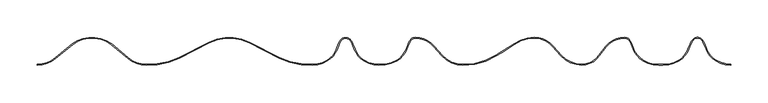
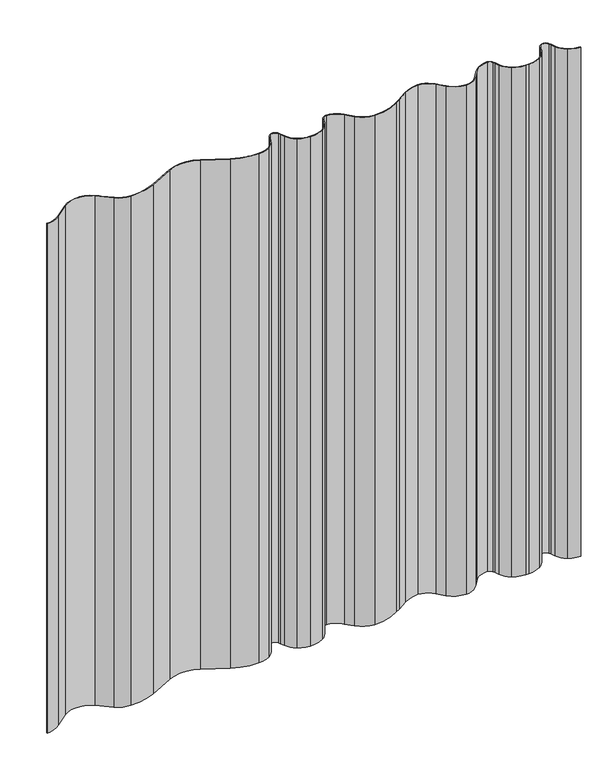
"""IFC4 building model written with IfcOpenShell, lengths in millimetres: plate geometry, Ritmica Vertical 928 : Ritmica Vertical 928."""

from ifc_helpers import new_model, si_unit, frame, origin, place, context, project, spatial, polyline, circle_curve, source, transform, mapped, element, save
from ifc_brep_helpers import plane_surface, cylinder_surface, revolved_surface, advanced_brep


def plate_ffdc8044(model_context):
    return source(origin(), model_context, "Body", "AdvancedBrep", [
        advanced_brep(
        [(444.4302446, 6.5092452, 935.9427146), (431.9836286, 21.2620905, 935.9427146), (429.1046615, 28.4575337, 935.9427146), (427.4452979, 31.9226201, 935.9427146), (411.4637013, 31.9284371, 935.9427146), (409.8018157, 28.4645596, 935.9427146), (406.9176114, 21.271214, 935.9427146), (394.4602592, 6.5274333, 935.9427146), (373.3665492, 0.7421636, 935.9427146), (368.0278773, 0.7421636, 935.9427146), (346.9383844, 6.5447303, 935.9427146), (334.4917684, 21.2975755, 935.9427146), (331.6128013, 28.4930188, 935.9427146), (329.9534377, 31.9581052, 935.9427146), (321.9644706, 36.992141, 935.9427146), (296.9888452, 24.9656023, 935.9427146), (287.4386892, 12.9828793, 935.9427146), (264.9602063, 1.004862, 935.9427146), (237.4962028, 13.0090371, 935.9427146), (226.3924296, 24.9992776, 935.9427146), (201.4255657, 37.0439944, 935.9427146), (174.6923281, 28.6299834, 935.9427146), (157.3593244, 17.4991286, 935.9427146), (149.9257866, 13.1042873, 935.9427146), (105.747615, 0.9217598, 935.9427146), (78.2836116, 12.9259348, 935.9427146), (67.1798385, 24.9161752, 935.9427146), (42.2097646, 36.9608925, 935.9427146), (34.2203451, 31.9326734, 935.9427146), (32.5584593, 28.4687956, 935.9427146), (29.674242, 21.2754179, 935.9427146), (17.2169044, 6.5316705, 935.9427146), (-6.5461114, 0.8337401, 935.9427146), (-26.0848579, 6.3430017, 935.9427146), (-38.5314739, 21.0958469, 935.9427146), (-41.410441, 28.2912902, 935.9427146), (-43.0698047, 31.7563766, 935.9427146), (-59.0514012, 31.7621935, 935.9427146), (-60.7132869, 28.298316, 935.9427146), (-63.5974912, 21.1049705, 935.9427146), (-76.0548434, 6.3611897, 935.9427146), (-95.5975949, 0.8661531, 935.9427146), (-139.3425473, 10.0476548, 935.9427146), (-179.8736188, 30.4443215, 935.9427146), (-233.7774888, 30.4639414, 935.9427146), (-274.3233975, 10.0967851, 935.9427146), (-318.0750221, 0.9471304, 935.9427146), (-341.83917, 9.5589915, 935.9427146), (-364.2633956, 28.2547827, 935.9427146), (-417.1208498, 28.2740218, 935.9427146), (-439.8609935, 9.5945594, 935.9427146), (-463.6317682, 1.0000001, 935.9427146), (-463.6317682, 0.0, 935.9427146), (-439.2211878, 8.8260227, 935.9427146), (-416.5014094, 27.488531, 935.9427146), (-364.8834077, 27.4697431, 935.9427146), (-342.479535, 8.7909208, 935.9427146), (-318.0931528, -0.0528589, 935.9427146), (-273.882295, 9.1992862, 935.9427146), (-233.3286151, 29.5703462, 935.9427146), (-180.3231429, 29.5510533, 935.9427146), (-139.7843031, 9.1504773, 935.9427146), (-95.5801931, -0.1338492, 935.9427146), (-75.5333761, 5.5079185, 935.9427146), (-62.6692321, 20.7330361, 935.9427146), (-59.7974032, 27.8955168, 935.9427146), (-58.1497994, 31.3296266, 935.9427146), (-43.9717211, 31.324466, 935.9427146), (-42.3266177, 27.8891578, 935.9427146), (-39.4600035, 20.7245884, 935.9427146), (-26.6069462, 5.4901103, 935.9427146), (-6.5788504, -0.1662344, 935.9427146), (17.7328786, 5.6750431, 935.9427146), (30.6024869, 20.9034484, 935.9427146), (33.4743429, 28.0659964, 935.9427146), (35.1219469, 31.5001063, 935.9427146), (42.2097628, 35.9608925, 935.9427146), (66.4203948, 24.2645007, 935.9427146), (77.5499027, 12.2464708, 935.9427146), (105.7362544, -0.0782346, 935.9427146), (150.4460781, 12.2501965, 935.9427146), (157.8841427, 16.6477141, 935.9427146), (175.2477974, 27.7982523, 935.9427146), (201.4270073, 36.0439937, 935.9427146), (225.6330756, 24.3475061, 935.9427146), (236.7624939, 12.3295731, 935.9427146), (264.9598423, 0.0048621, 935.9427146), (288.2459339, 12.3912758, 935.9427146), (297.7708595, 24.3423418, 935.9427146), (321.9641067, 35.9921411, 935.9427146), (329.0515212, 31.5261946, 935.9427146), (330.6966247, 28.0908864, 935.9427146), (333.5638307, 20.9248377, 935.9427146), (346.4204051, 5.6893005, 935.9427146), (368.0275134, -0.2558932, 935.9427146), (373.3663683, -0.2578364, 935.9427146), (394.9762369, 5.6708079, 935.9427146), (407.8458704, 20.8992797, 935.9427146), (410.7176994, 28.0617603, 935.9427146), (412.3653031, 31.4958701, 935.9427146), (426.5433815, 31.4907096, 935.9427146), (428.1884849, 28.0554013, 935.9427146), (431.0550991, 20.8908319, 935.9427146), (443.9081563, 5.6563538, 935.9427146), (463.9686268, -1.63e-05, 935.9427146), (463.9686268, 0.9999838, 935.9427146), (444.4302446, 6.5092452, 0.0), (463.9686268, 0.9999838, 0.0), (463.9686268, -1.63e-05, 0.0), (443.9081563, 5.6563538, 0.0), (431.0550991, 20.8908319, 0.0), (428.1884849, 28.0554013, 0.0), (426.5433815, 31.4907096, 0.0), (412.3653031, 31.4958701, 0.0), (410.7176994, 28.0617603, 0.0), (407.8458704, 20.8992797, 0.0), (394.9762369, 5.6708079, 0.0), (373.3663683, -0.2578364, 0.0), (368.0278773, -0.2578364, 0.0), (346.4204051, 5.6893005, 0.0), (333.5638307, 20.9248377, 0.0), (330.6966247, 28.0908864, 0.0), (329.0515212, 31.5261946, 0.0), (321.9641067, 35.9921411, 0.0), (297.7708595, 24.3423418, 0.0), (288.2459339, 12.3912758, 0.0), (264.9598423, 0.0048621, 0.0), (236.7624939, 12.3295731, 0.0), (225.6330756, 24.3475061, 0.0), (201.4270073, 36.0439937, 0.0), (175.2477974, 27.7982523, 0.0), (157.8841427, 16.6477141, 0.0), (150.4460781, 12.2501965, 0.0), (105.7362544, -0.0782346, 0.0), (77.5499027, 12.2464708, 0.0), (66.4203948, 24.2645007, 0.0), (42.2097628, 35.9608925, 0.0), (35.1219469, 31.5001063, 0.0), (33.4743429, 28.0659964, 0.0), (30.6024869, 20.9034484, 0.0), (17.7328786, 5.6750431, 0.0), (-6.5788504, -0.1662344, 0.0), (-26.6069462, 5.4901103, 0.0), (-39.4600035, 20.7245884, 0.0), (-42.3266177, 27.8891578, 0.0), (-43.9717211, 31.324466, 0.0), (-58.1497994, 31.3296266, 0.0), (-59.7974032, 27.8955168, 0.0), (-62.6692321, 20.7330361, 0.0), (-75.5333761, 5.5079185, 0.0), (-95.5801931, -0.1338492, 0.0), (-139.7843031, 9.1504773, 0.0), (-180.3231429, 29.5510533, 0.0), (-233.3286151, 29.5703462, 0.0), (-273.882295, 9.1992862, 0.0), (-318.0931528, -0.0528589, 0.0), (-342.479535, 8.7909208, 0.0), (-364.8834077, 27.4697431, 0.0), (-416.5014094, 27.488531, 0.0), (-439.2211878, 8.8260227, 0.0), (-463.6317682, 0.0, 0.0), (-463.6317682, 1.0000001, 0.0), (-439.8609935, 9.5945594, 0.0), (-417.1208498, 28.2740218, 0.0), (-364.2633956, 28.2547827, 0.0), (-341.83917, 9.5589915, 0.0), (-318.0750221, 0.9471304, 0.0), (-274.3233975, 10.0967851, 0.0), (-233.7774888, 30.4639414, 0.0), (-179.8736188, 30.4443215, 0.0), (-139.3425473, 10.0476548, 0.0), (-95.5975949, 0.8661531, 0.0), (-76.0548434, 6.3611897, 0.0), (-63.5974912, 21.1049705, 0.0), (-60.7132869, 28.298316, 0.0), (-59.0514012, 31.7621935, 0.0), (-43.0698047, 31.7563766, 0.0), (-41.410441, 28.2912902, 0.0), (-38.5314739, 21.0958469, 0.0), (-26.0848579, 6.3430017, 0.0), (-6.5461114, 0.8337401, 0.0), (17.2169044, 6.5316705, 0.0), (29.674242, 21.2754179, 0.0), (32.5584593, 28.4687956, 0.0), (34.2203451, 31.9326734, 0.0), (42.2097646, 36.9608925, 0.0), (67.1798385, 24.9161752, 0.0), (78.2836116, 12.9259348, 0.0), (105.747615, 0.9217598, 0.0), (149.9257866, 13.1042873, 0.0), (157.3593244, 17.4991286, 0.0), (174.6923281, 28.6299834, 0.0), (201.4255657, 37.0439944, 0.0), (226.3924296, 24.9992776, 0.0), (237.4962028, 13.0090371, 0.0), (264.9602063, 1.004862, 0.0), (287.4386892, 12.9828793, 0.0), (296.9888452, 24.9656023, 0.0), (321.9644706, 36.992141, 0.0), (329.9534377, 31.9581052, 0.0), (331.6128013, 28.4930188, 0.0), (334.4917684, 21.2975755, 0.0), (346.9383844, 6.5447303, 0.0), (368.0278773, 0.7441067, 0.0), (373.3665492, 0.7421636, 0.0), (394.4602592, 6.5274333, 0.0), (406.9176114, 21.271214, 0.0), (409.8018157, 28.4645596, 0.0), (411.4637013, 31.9284371, 0.0), (427.4452979, 31.9226201, 0.0), (429.1046615, 28.4575337, 0.0), (431.9836286, 21.2620905, 0.0)],
        [
            (0, 1, circle_curve(frame((460.4148551, 32.6219475, 935.9427146), z_axis=(0.0, 0.0, -1.0), x_axis=(1.0, 0.0, 0.0)), 30.6166783)),
            (1, 2),
            (2, 3),
            (3, 4, circle_curve(frame((419.4531055, 28.095312, 935.9427146), z_axis=(0.0, 0.0, 1.0), x_axis=(1.0, 0.0, 0.0)), 8.8613445)),
            (4, 5),
            (5, 6),
            (6, 7, circle_curve(frame((378.4946619, 32.6517648, 935.9427146), z_axis=(0.0, 0.0, -1.0), x_axis=(1.0, 0.0, 0.0)), 30.6166783)),
            (7, 8, circle_curve(frame((373.381579, 42.0349557, 935.9427146), z_axis=(0.0, 0.0, -1.0), x_axis=(1.0, 0.0, 0.0)), 41.2927949)),
            (8, 9),
            (9, 10, circle_curve(frame((368.0429071, 42.0368989, 935.9427146), z_axis=(0.0, 0.0, -1.0), x_axis=(1.0, 0.0, 0.0)), 41.2927949)),
            (10, 11, circle_curve(frame((363.1637949, 32.8605896, 935.9427146), z_axis=(0.0, 0.0, -1.0), x_axis=(1.0, 0.0, 0.0)), 30.9158276)),
            (11, 12),
            (12, 13),
            (13, 14, circle_curve(frame((321.9612453, 28.130797, 935.9427146), z_axis=(0.0, 0.0, 1.0), x_axis=(1.0, 0.0, 0.0)), 8.8613445)),
            (14, 15, circle_curve(frame((321.9528514, 5.069444, 935.9427146), z_axis=(0.0, 0.0, 1.0), x_axis=(1.0, 0.0, 0.0)), 31.9226992)),
            (15, 16),
            (16, 17, circle_curve(frame((264.9700565, 28.0674484, 935.9427146), z_axis=(0.0, 0.0, -1.0), x_axis=(1.0, 0.0, 0.0)), 27.0625882)),
            (17, 18, circle_curve(frame((264.9738374, 38.455184, 935.9427146), z_axis=(0.0, 0.0, -1.0), x_axis=(1.0, 0.0, 0.0)), 37.4503244)),
            (18, 19),
            (19, 20, circle_curve(frame((201.4139464, 5.1212973, 935.9427146), z_axis=(0.0, 0.0, 1.0), x_axis=(1.0, 0.0, 0.0)), 31.9226992)),
            (20, 21, circle_curve(frame((201.5791622, -10.119828, 935.9427146), z_axis=(0.0, 0.0, 1.0), x_axis=(1.0, 0.0, 0.0)), 47.1640725)),
            (21, 22),
            (22, 23),
            (23, 24, circle_curve(frame((107.5247522, 80.6713634, 935.9427146), z_axis=(0.0, 0.0, -1.0), x_axis=(1.0, 0.0, 0.0)), 79.769402)),
            (24, 25, circle_curve(frame((105.7612462, 38.3720817, 935.9427146), z_axis=(0.0, 0.0, -1.0), x_axis=(1.0, 0.0, 0.0)), 37.4503244)),
            (25, 26),
            (26, 27, circle_curve(frame((42.2097086, 5.0555108, 935.9427146), z_axis=(0.0, 0.0, 1.0), x_axis=(1.0, 0.0, 0.0)), 31.9053816)),
            (27, 28, circle_curve(frame((42.209749, 28.099548, 935.9427146), z_axis=(0.0, 0.0, 1.0), x_axis=(1.0, 0.0, 0.0)), 8.8613444)),
            (28, 29),
            (29, 30),
            (30, 31, circle_curve(frame((1.2513055, 32.656001, 935.9427146), z_axis=(0.0, 0.0, -1.0), x_axis=(1.0, 0.0, 0.0)), 30.6166783)),
            (31, 32, circle_curve(frame((-3.8617775, 42.0391919, 935.9427146), z_axis=(0.0, 0.0, -1.0), x_axis=(1.0, 0.0, 0.0)), 41.2927948)),
            (32, 33, circle_curve(frame((-6.5324806, 38.2840621, 935.9427146), z_axis=(0.0, 0.0, -1.0), x_axis=(1.0, 0.0, 0.0)), 37.4503244)),
            (33, 34, circle_curve(frame((-10.1002475, 32.4557039, 935.9427146), z_axis=(0.0, 0.0, -1.0), x_axis=(1.0, 0.0, 0.0)), 30.6166783)),
            (34, 35),
            (35, 36),
            (36, 37, circle_curve(frame((-51.0619971, 27.9290684, 935.9427146), z_axis=(0.0, 0.0, 1.0), x_axis=(1.0, 0.0, 0.0)), 8.8613445)),
            (37, 38),
            (38, 39),
            (39, 40, circle_curve(frame((-92.0204406, 32.4855212, 935.9427146), z_axis=(0.0, 0.0, -1.0), x_axis=(1.0, 0.0, 0.0)), 30.6166783)),
            (40, 41, circle_curve(frame((-95.5839638, 38.316475, 935.9427146), z_axis=(0.0, 0.0, -1.0), x_axis=(1.0, 0.0, 0.0)), 37.4503244)),
            (41, 42, circle_curve(frame((-98.8645428, 94.1023106, 935.9427146), z_axis=(0.0, 0.0, -1.0), x_axis=(1.0, 0.0, 0.0)), 93.293376)),
            (42, 43),
            (43, 44, circle_curve(frame((-206.8450653, -23.1517705, 935.9427146), z_axis=(0.0, 0.0, 1.0), x_axis=(1.0, 0.0, 0.0)), 60.0)),
            (44, 45),
            (45, 46, circle_curve(frame((-314.7402029, 94.180885, 935.9427146), z_axis=(0.0, 0.0, -1.0), x_axis=(1.0, 0.0, 0.0)), 93.293376)),
            (46, 47, circle_curve(frame((-318.061507, 38.0785482, 935.9427146), z_axis=(0.0, 0.0, -1.0), x_axis=(1.0, 0.0, 0.0)), 37.1314203)),
            (47, 48),
            (48, 49, circle_curve(frame((-390.7049909, -7.0897704, 935.9427146), z_axis=(0.0, 0.0, 1.0), x_axis=(1.0, 0.0, 0.0)), 44.1406321)),
            (49, 50),
            (50, 51, circle_curve(frame((-463.6178891, 38.1314178, 935.9427146), z_axis=(0.0, 0.0, -1.0), x_axis=(1.0, 0.0, 0.0)), 37.1314203)),
            (51, 52),
            (52, 53, circle_curve(frame((-463.6178891, 38.1314178, 935.9427146), z_axis=(0.0, 0.0, 1.0), x_axis=(1.0, 0.0, 0.0)), 38.1314203)),
            (53, 54),
            (54, 55, circle_curve(frame((-390.7049909, -7.0897704, 935.9427146), z_axis=(0.0, 0.0, -1.0), x_axis=(1.0, 0.0, 0.0)), 43.1406321)),
            (55, 56),
            (56, 57, circle_curve(frame((-318.061507, 38.0785482, 935.9427146), z_axis=(0.0, 0.0, 1.0), x_axis=(1.0, 0.0, 0.0)), 38.1314203)),
            (57, 58, circle_curve(frame((-314.7402029, 94.180885, 935.9427146), z_axis=(0.0, 0.0, 1.0), x_axis=(1.0, 0.0, 0.0)), 94.293376)),
            (58, 59),
            (59, 60, circle_curve(frame((-206.8450653, -23.1517705, 935.9427146), z_axis=(0.0, 0.0, -1.0), x_axis=(1.0, 0.0, 0.0)), 59.0)),
            (60, 61),
            (61, 62, circle_curve(frame((-98.8645428, 94.1023106, 935.9427146), z_axis=(0.0, 0.0, 1.0), x_axis=(1.0, 0.0, 0.0)), 94.293376)),
            (62, 63, circle_curve(frame((-95.5839638, 38.316475, 935.9427146), z_axis=(0.0, 0.0, 1.0), x_axis=(1.0, 0.0, 0.0)), 38.4503244)),
            (63, 64, circle_curve(frame((-92.0204406, 32.4855212, 935.9427146), z_axis=(0.0, 0.0, 1.0), x_axis=(1.0, 0.0, 0.0)), 31.6166783)),
            (64, 65),
            (65, 66),
            (66, 67, circle_curve(frame((-51.0619971, 27.9290684, 935.9427146), z_axis=(0.0, 0.0, -1.0), x_axis=(1.0, 0.0, 0.0)), 7.8613445)),
            (67, 68),
            (68, 69),
            (69, 70, circle_curve(frame((-10.1002475, 32.4557039, 935.9427146), z_axis=(0.0, 0.0, 1.0), x_axis=(1.0, 0.0, 0.0)), 31.6166783)),
            (70, 71, circle_curve(frame((-6.5324806, 38.2840621, 935.9427146), z_axis=(0.0, 0.0, 1.0), x_axis=(1.0, 0.0, 0.0)), 38.4503244)),
            (71, 72, circle_curve(frame((-3.8617775, 42.0391919, 935.9427146), z_axis=(0.0, 0.0, 1.0), x_axis=(1.0, 0.0, 0.0)), 42.2927948)),
            (72, 73, circle_curve(frame((1.2513055, 32.656001, 935.9427146), z_axis=(0.0, 0.0, 1.0), x_axis=(1.0, 0.0, 0.0)), 31.6166782)),
            (73, 74),
            (74, 75),
            (75, 76, circle_curve(frame((42.209749, 28.099548, 935.9427146), z_axis=(0.0, 0.0, -1.0), x_axis=(1.0, 0.0, 0.0)), 7.8613444)),
            (76, 77, circle_curve(frame((42.2097086, 5.0555108, 935.9427146), z_axis=(0.0, 0.0, -1.0), x_axis=(1.0, 0.0, 0.0)), 30.9053816)),
            (77, 78),
            (78, 79, circle_curve(frame((105.7612462, 38.3720817, 935.9427146), z_axis=(0.0, 0.0, 1.0), x_axis=(1.0, 0.0, 0.0)), 38.4503244)),
            (79, 80, circle_curve(frame((107.5247522, 80.6713634, 935.9427146), z_axis=(0.0, 0.0, 1.0), x_axis=(1.0, 0.0, 0.0)), 80.769402)),
            (80, 81),
            (81, 82),
            (82, 83, circle_curve(frame((201.5791622, -10.119828, 935.9427146), z_axis=(0.0, 0.0, -1.0), x_axis=(1.0, 0.0, 0.0)), 46.1640725)),
            (83, 84, circle_curve(frame((201.4139464, 5.1212973, 935.9427146), z_axis=(0.0, 0.0, -1.0), x_axis=(1.0, 0.0, 0.0)), 30.9226992)),
            (84, 85),
            (85, 86, circle_curve(frame((264.9738374, 38.455184, 935.9427146), z_axis=(0.0, 0.0, 1.0), x_axis=(1.0, 0.0, 0.0)), 38.4503244)),
            (86, 87, circle_curve(frame((264.9700565, 28.0674484, 935.9427146), z_axis=(0.0, 0.0, 1.0), x_axis=(1.0, 0.0, 0.0)), 28.0625882)),
            (87, 88),
            (88, 89, circle_curve(frame((321.9528514, 5.069444, 935.9427146), z_axis=(0.0, 0.0, -1.0), x_axis=(1.0, 0.0, 0.0)), 30.9226992)),
            (89, 90, circle_curve(frame((321.9612453, 28.130797, 935.9427146), z_axis=(0.0, 0.0, -1.0), x_axis=(1.0, 0.0, 0.0)), 7.8613445)),
            (90, 91),
            (91, 92),
            (92, 93, circle_curve(frame((363.1637949, 32.8605896, 935.9427146), z_axis=(0.0, 0.0, 1.0), x_axis=(1.0, 0.0, 0.0)), 31.9158276)),
            (93, 94, circle_curve(frame((368.0429071, 42.0368989, 935.9427146), z_axis=(0.0, 0.0, 1.0), x_axis=(1.0, 0.0, 0.0)), 42.2927949)),
            (94, 95),
            (95, 96, circle_curve(frame((373.381579, 42.0349557, 935.9427146), z_axis=(0.0, 0.0, 1.0), x_axis=(1.0, 0.0, 0.0)), 42.2927949)),
            (96, 97, circle_curve(frame((378.4946619, 32.6517648, 935.9427146), z_axis=(0.0, 0.0, 1.0), x_axis=(1.0, 0.0, 0.0)), 31.6166783)),
            (97, 98),
            (98, 99),
            (99, 100, circle_curve(frame((419.4531055, 28.095312, 935.9427146), z_axis=(0.0, 0.0, -1.0), x_axis=(1.0, 0.0, 0.0)), 7.8613445)),
            (100, 101),
            (101, 102),
            (102, 103, circle_curve(frame((460.4148551, 32.6219475, 935.9427146), z_axis=(0.0, 0.0, 1.0), x_axis=(1.0, 0.0, 0.0)), 31.6166783)),
            (103, 104, circle_curve(frame((463.982622, 38.4503056, 935.9427146), z_axis=(0.0, 0.0, 1.0), x_axis=(1.0, 0.0, 0.0)), 38.4503244)),
            (104, 105),
            (105, 0, circle_curve(frame((463.982622, 38.4503056, 935.9427146), z_axis=(0.0, 0.0, -1.0), x_axis=(1.0, 0.0, 0.0)), 37.4503244)),
            (106, 107, circle_curve(frame((463.982622, 38.4503056, 0.0), z_axis=(0.0, 0.0, 1.0), x_axis=(1.0, 0.0, 0.0)), 37.4503244)),
            (107, 108),
            (108, 109, circle_curve(frame((463.982622, 38.4503056, 0.0), z_axis=(0.0, 0.0, -1.0), x_axis=(1.0, 0.0, 0.0)), 38.4503244)),
            (109, 110, circle_curve(frame((460.4148551, 32.6219475, 0.0), z_axis=(0.0, 0.0, -1.0), x_axis=(1.0, 0.0, 0.0)), 31.6166783)),
            (110, 111),
            (111, 112),
            (112, 113, circle_curve(frame((419.4531055, 28.095312, 0.0), z_axis=(0.0, 0.0, 1.0), x_axis=(1.0, 0.0, 0.0)), 7.8613445)),
            (113, 114),
            (114, 115),
            (115, 116, circle_curve(frame((378.4946619, 32.6517648, 0.0), z_axis=(0.0, 0.0, -1.0), x_axis=(1.0, 0.0, 0.0)), 31.6166783)),
            (116, 117, circle_curve(frame((373.381579, 42.0349557, 0.0), z_axis=(0.0, 0.0, -1.0), x_axis=(1.0, 0.0, 0.0)), 42.2927949)),
            (117, 118),
            (118, 119, circle_curve(frame((368.0429071, 42.0368989, 0.0), z_axis=(0.0, 0.0, -1.0), x_axis=(1.0, 0.0, 0.0)), 42.2927949)),
            (119, 120, circle_curve(frame((363.1637949, 32.8605896, 0.0), z_axis=(0.0, 0.0, -1.0), x_axis=(1.0, 0.0, 0.0)), 31.9158276)),
            (120, 121),
            (121, 122),
            (122, 123, circle_curve(frame((321.9612453, 28.130797, 0.0), z_axis=(0.0, 0.0, 1.0), x_axis=(1.0, 0.0, 0.0)), 7.8613445)),
            (123, 124, circle_curve(frame((321.9528514, 5.069444, 0.0), z_axis=(0.0, 0.0, 1.0), x_axis=(1.0, 0.0, 0.0)), 30.9226992)),
            (124, 125),
            (125, 126, circle_curve(frame((264.9700565, 28.0674484, 0.0), z_axis=(0.0, 0.0, -1.0), x_axis=(1.0, 0.0, 0.0)), 28.0625882)),
            (126, 127, circle_curve(frame((264.9738374, 38.455184, 0.0), z_axis=(0.0, 0.0, -1.0), x_axis=(1.0, 0.0, 0.0)), 38.4503244)),
            (127, 128),
            (128, 129, circle_curve(frame((201.4139464, 5.1212973, 0.0), z_axis=(0.0, 0.0, 1.0), x_axis=(1.0, 0.0, 0.0)), 30.9226992)),
            (129, 130, circle_curve(frame((201.5791622, -10.119828, 0.0), z_axis=(0.0, 0.0, 1.0), x_axis=(1.0, 0.0, 0.0)), 46.1640725)),
            (130, 131),
            (131, 132),
            (132, 133, circle_curve(frame((107.5247522, 80.6713634, 0.0), z_axis=(0.0, 0.0, -1.0), x_axis=(1.0, 0.0, 0.0)), 80.769402)),
            (133, 134, circle_curve(frame((105.7612462, 38.3720817, 0.0), z_axis=(0.0, 0.0, -1.0), x_axis=(1.0, 0.0, 0.0)), 38.4503244)),
            (134, 135),
            (135, 136, circle_curve(frame((42.2097086, 5.0555108, 0.0), z_axis=(0.0, 0.0, 1.0), x_axis=(1.0, 0.0, 0.0)), 30.9053816)),
            (136, 137, circle_curve(frame((42.209749, 28.099548, 0.0), z_axis=(0.0, 0.0, 1.0), x_axis=(1.0, 0.0, 0.0)), 7.8613444)),
            (137, 138),
            (138, 139),
            (139, 140, circle_curve(frame((1.2513055, 32.656001, 0.0), z_axis=(0.0, 0.0, -1.0), x_axis=(1.0, 0.0, 0.0)), 31.6166782)),
            (140, 141, circle_curve(frame((-3.8617775, 42.0391919, 0.0), z_axis=(0.0, 0.0, -1.0), x_axis=(1.0, 0.0, 0.0)), 42.2927948)),
            (141, 142, circle_curve(frame((-6.5324806, 38.2840621, 0.0), z_axis=(0.0, 0.0, -1.0), x_axis=(1.0, 0.0, 0.0)), 38.4503244)),
            (142, 143, circle_curve(frame((-10.1002475, 32.4557039, 0.0), z_axis=(0.0, 0.0, -1.0), x_axis=(1.0, 0.0, 0.0)), 31.6166783)),
            (143, 144),
            (144, 145),
            (145, 146, circle_curve(frame((-51.0619971, 27.9290684, 0.0), z_axis=(0.0, 0.0, 1.0), x_axis=(1.0, 0.0, 0.0)), 7.8613445)),
            (146, 147),
            (147, 148),
            (148, 149, circle_curve(frame((-92.0204406, 32.4855212, 0.0), z_axis=(0.0, 0.0, -1.0), x_axis=(1.0, 0.0, 0.0)), 31.6166783)),
            (149, 150, circle_curve(frame((-95.5839638, 38.316475, 0.0), z_axis=(0.0, 0.0, -1.0), x_axis=(1.0, 0.0, 0.0)), 38.4503244)),
            (150, 151, circle_curve(frame((-98.8645428, 94.1023106, 0.0), z_axis=(0.0, 0.0, -1.0), x_axis=(1.0, 0.0, 0.0)), 94.293376)),
            (151, 152),
            (152, 153, circle_curve(frame((-206.8450653, -23.1517705, 0.0), z_axis=(0.0, 0.0, 1.0), x_axis=(1.0, 0.0, 0.0)), 59.0)),
            (153, 154),
            (154, 155, circle_curve(frame((-314.7402029, 94.180885, 0.0), z_axis=(0.0, 0.0, -1.0), x_axis=(1.0, 0.0, 0.0)), 94.293376)),
            (155, 156, circle_curve(frame((-318.061507, 38.0785482, 0.0), z_axis=(0.0, 0.0, -1.0), x_axis=(1.0, 0.0, 0.0)), 38.1314203)),
            (156, 157),
            (157, 158, circle_curve(frame((-390.7049909, -7.0897704, 0.0), z_axis=(0.0, 0.0, 1.0), x_axis=(1.0, 0.0, 0.0)), 43.1406321)),
            (158, 159),
            (159, 160, circle_curve(frame((-463.6178891, 38.1314178, 0.0), z_axis=(0.0, 0.0, -1.0), x_axis=(1.0, 0.0, 0.0)), 38.1314203)),
            (160, 161),
            (161, 162, circle_curve(frame((-463.6178891, 38.1314178, 0.0), z_axis=(0.0, 0.0, 1.0), x_axis=(1.0, 0.0, 0.0)), 37.1314203)),
            (162, 163),
            (163, 164, circle_curve(frame((-390.7049909, -7.0897704, 0.0), z_axis=(0.0, 0.0, -1.0), x_axis=(1.0, 0.0, 0.0)), 44.1406321)),
            (164, 165),
            (165, 166, circle_curve(frame((-318.061507, 38.0785482, 0.0), z_axis=(0.0, 0.0, 1.0), x_axis=(1.0, 0.0, 0.0)), 37.1314203)),
            (166, 167, circle_curve(frame((-314.7402029, 94.180885, 0.0), z_axis=(0.0, 0.0, 1.0), x_axis=(1.0, 0.0, 0.0)), 93.293376)),
            (167, 168),
            (168, 169, circle_curve(frame((-206.8450653, -23.1517705, 0.0), z_axis=(0.0, 0.0, -1.0), x_axis=(1.0, 0.0, 0.0)), 60.0)),
            (169, 170),
            (170, 171, circle_curve(frame((-98.8645428, 94.1023106, 0.0), z_axis=(0.0, 0.0, 1.0), x_axis=(1.0, 0.0, 0.0)), 93.293376)),
            (171, 172, circle_curve(frame((-95.5839638, 38.316475, 0.0), z_axis=(0.0, 0.0, 1.0), x_axis=(1.0, 0.0, 0.0)), 37.4503244)),
            (172, 173, circle_curve(frame((-92.0204406, 32.4855212, 0.0), z_axis=(0.0, 0.0, 1.0), x_axis=(1.0, 0.0, 0.0)), 30.6166783)),
            (173, 174),
            (174, 175),
            (175, 176, circle_curve(frame((-51.0619971, 27.9290684, 0.0), z_axis=(0.0, 0.0, -1.0), x_axis=(1.0, 0.0, 0.0)), 8.8613445)),
            (176, 177),
            (177, 178),
            (178, 179, circle_curve(frame((-10.1002475, 32.4557039, 0.0), z_axis=(0.0, 0.0, 1.0), x_axis=(1.0, 0.0, 0.0)), 30.6166783)),
            (179, 180, circle_curve(frame((-6.5324806, 38.2840621, 0.0), z_axis=(0.0, 0.0, 1.0), x_axis=(1.0, 0.0, 0.0)), 37.4503244)),
            (180, 181, circle_curve(frame((-3.8617775, 42.0391919, 0.0), z_axis=(0.0, 0.0, 1.0), x_axis=(1.0, 0.0, 0.0)), 41.2927948)),
            (181, 182, circle_curve(frame((1.2513055, 32.656001, 0.0), z_axis=(0.0, 0.0, 1.0), x_axis=(1.0, 0.0, 0.0)), 30.6166783)),
            (182, 183),
            (183, 184),
            (184, 185, circle_curve(frame((42.209749, 28.099548, 0.0), z_axis=(0.0, 0.0, -1.0), x_axis=(1.0, 0.0, 0.0)), 8.8613444)),
            (185, 186, circle_curve(frame((42.2097086, 5.0555108, 0.0), z_axis=(0.0, 0.0, -1.0), x_axis=(1.0, 0.0, 0.0)), 31.9053816)),
            (186, 187),
            (187, 188, circle_curve(frame((105.7612462, 38.3720817, 0.0), z_axis=(0.0, 0.0, 1.0), x_axis=(1.0, 0.0, 0.0)), 37.4503244)),
            (188, 189, circle_curve(frame((107.5247522, 80.6713634, 0.0), z_axis=(0.0, 0.0, 1.0), x_axis=(1.0, 0.0, 0.0)), 79.769402)),
            (189, 190),
            (190, 191),
            (191, 192, circle_curve(frame((201.5791622, -10.119828, 0.0), z_axis=(0.0, 0.0, -1.0), x_axis=(1.0, 0.0, 0.0)), 47.1640725)),
            (192, 193, circle_curve(frame((201.4139464, 5.1212973, 0.0), z_axis=(0.0, 0.0, -1.0), x_axis=(1.0, 0.0, 0.0)), 31.9226992)),
            (193, 194),
            (194, 195, circle_curve(frame((264.9738374, 38.455184, 0.0), z_axis=(0.0, 0.0, 1.0), x_axis=(1.0, 0.0, 0.0)), 37.4503244)),
            (195, 196, circle_curve(frame((264.9700565, 28.0674484, 0.0), z_axis=(0.0, 0.0, 1.0), x_axis=(1.0, 0.0, 0.0)), 27.0625882)),
            (196, 197),
            (197, 198, circle_curve(frame((321.9528514, 5.069444, 0.0), z_axis=(0.0, 0.0, -1.0), x_axis=(1.0, 0.0, 0.0)), 31.9226992)),
            (198, 199, circle_curve(frame((321.9612453, 28.130797, 0.0), z_axis=(0.0, 0.0, -1.0), x_axis=(1.0, 0.0, 0.0)), 8.8613445)),
            (199, 200),
            (200, 201),
            (201, 202, circle_curve(frame((363.1637949, 32.8605896, 0.0), z_axis=(0.0, 0.0, 1.0), x_axis=(1.0, 0.0, 0.0)), 30.9158276)),
            (202, 203, circle_curve(frame((368.0429071, 42.0368989, 0.0), z_axis=(0.0, 0.0, 1.0), x_axis=(1.0, 0.0, 0.0)), 41.2927949)),
            (203, 204),
            (204, 205, circle_curve(frame((373.381579, 42.0349557, 0.0), z_axis=(0.0, 0.0, 1.0), x_axis=(1.0, 0.0, 0.0)), 41.2927949)),
            (205, 206, circle_curve(frame((378.4946619, 32.6517648, 0.0), z_axis=(0.0, 0.0, 1.0), x_axis=(1.0, 0.0, 0.0)), 30.6166783)),
            (206, 207),
            (207, 208),
            (208, 209, circle_curve(frame((419.4531055, 28.095312, 0.0), z_axis=(0.0, 0.0, -1.0), x_axis=(1.0, 0.0, 0.0)), 8.8613445)),
            (209, 210),
            (210, 211),
            (211, 106, circle_curve(frame((460.4148551, 32.6219475, 0.0), z_axis=(0.0, 0.0, 1.0), x_axis=(1.0, 0.0, 0.0)), 30.6166783)),
            (0, 106),
            (211, 1),
            (210, 2),
            (209, 3),
            (208, 4),
            (207, 5),
            (206, 6),
            (205, 7),
            (204, 8),
            (203, 9),
            (202, 10),
            (201, 11),
            (200, 12),
            (199, 13),
            (198, 14),
            (197, 15),
            (196, 16),
            (195, 17),
            (194, 18),
            (193, 19),
            (192, 20),
            (191, 21),
            (190, 22),
            (189, 23),
            (188, 24),
            (187, 25),
            (186, 26),
            (185, 27),
            (184, 28),
            (183, 29),
            (182, 30),
            (181, 31),
            (180, 32),
            (179, 33),
            (178, 34),
            (177, 35),
            (176, 36),
            (175, 37),
            (174, 38),
            (173, 39),
            (172, 40),
            (171, 41),
            (170, 42),
            (169, 43),
            (168, 44),
            (167, 45),
            (166, 46),
            (165, 47),
            (164, 48),
            (163, 49),
            (162, 50),
            (161, 51),
            (160, 52),
            (159, 53),
            (158, 54),
            (157, 55),
            (156, 56),
            (155, 57),
            (154, 58),
            (153, 59),
            (152, 60),
            (151, 61),
            (150, 62),
            (149, 63),
            (148, 64),
            (147, 65),
            (146, 66),
            (145, 67),
            (144, 68),
            (143, 69),
            (142, 70),
            (141, 71),
            (140, 72),
            (139, 73),
            (138, 74),
            (137, 75),
            (136, 76),
            (135, 77),
            (134, 78),
            (133, 79),
            (132, 80),
            (131, 81),
            (130, 82),
            (129, 83),
            (128, 84),
            (127, 85),
            (126, 86),
            (125, 87),
            (124, 88),
            (123, 89),
            (122, 90),
            (121, 91),
            (120, 92),
            (119, 93),
            (118, 94),
            (117, 95),
            (116, 96),
            (115, 97),
            (114, 98),
            (113, 99),
            (112, 100),
            (111, 101),
            (110, 102),
            (109, 103),
            (108, 104),
            (107, 105),
        ],
        [
            plane_surface(frame((491.0315334, 32.6219475, 935.9427146), z_axis=(0.0, 0.0, 1.0), x_axis=(0.0, -1.0, 0.0))),
            plane_surface(frame((491.0315334, 32.6219475, 0.0), z_axis=(0.0, 0.0, -1.0), x_axis=(0.0, 1.0, 0.0))),
            revolved_surface(polyline([(491.0315334, 32.6219475, 0.0), (491.0315334, 32.6219475, 935.9427146)]), (460.4148551, 32.6219475, 0.0), (0.0, 0.0, -1.0)),
            plane_surface(frame((431.9836286, 21.2620905, 935.9427146), z_axis=(0.9284415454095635, 0.3714785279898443, 0.0), x_axis=(0.0, 0.0, -1.0))),
            plane_surface(frame((429.1046615, 28.4575337, 935.9427146), z_axis=(0.901916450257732, 0.4319105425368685, 0.0), x_axis=(0.0, 0.0, -1.0))),
            cylinder_surface(frame((419.4531055, 28.095312, 0.0), z_axis=(0.0, 0.0, 1.0), x_axis=(1.0, 0.0, 0.0)), 8.8613445),
            plane_surface(frame((411.4637013, 31.9284371, 935.9427146), z_axis=(-0.9016017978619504, 0.4325669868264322, 0.0), x_axis=(0.0, 0.0, -1.0))),
            plane_surface(frame((409.8018157, 28.4645596, 935.9427146), z_axis=(-0.9281708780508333, 0.37215429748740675, 0.0), x_axis=(0.0, 0.0, -1.0))),
            revolved_surface(polyline([(409.1113402, 32.6517648, 0.0), (409.1113402, 32.6517648, 935.9427146)]), (378.4946619, 32.6517648, 0.0), (0.0, 0.0, -1.0)),
            revolved_surface(polyline([(414.6743739, 42.0349557, 0.0), (414.6743739, 42.0349557, 935.9427146)]), (373.381579, 42.0349557, 0.0), (0.0, 0.0, -1.0)),
            plane_surface(frame((373.3665492, 0.7421636, 935.9427146), z_axis=(0.0, 1.0, 0.0), x_axis=(0.0, 0.0, -1.0))),
            revolved_surface(polyline([(409.33570199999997, 42.0368989, 0.0), (409.33570199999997, 42.0368989, 935.9427146)]), (368.0429071, 42.0368989, 0.0), (0.0, 0.0, -1.0)),
            revolved_surface(polyline([(394.0796225, 32.8605896, 0.0), (394.0796225, 32.8605896, 935.9427146)]), (363.1637949, 32.8605896, 0.0), (0.0, 0.0, -1.0)),
            plane_surface(frame((334.4917684, 21.2975755, 935.9427146), z_axis=(0.9284415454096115, 0.37147852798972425, 0.0), x_axis=(0.0, 0.0, -1.0))),
            plane_surface(frame((331.6128013, 28.4930188, 935.9427146), z_axis=(0.901916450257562, 0.4319105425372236, 0.0), x_axis=(0.0, 0.0, -1.0))),
            cylinder_surface(frame((321.9612453, 28.130797, 0.0), z_axis=(0.0, 0.0, 1.0), x_axis=(1.0, 0.0, 0.0)), 8.8613445),
            cylinder_surface(frame((321.9528514, 5.069444, 0.0), z_axis=(0.0, 0.0, 1.0), x_axis=(1.0, 0.0, 0.0)), 31.9226992),
            plane_surface(frame((296.9888452, 24.9656023, 935.9427146), z_axis=(-0.7820142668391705, 0.6232605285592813, 0.0), x_axis=(0.0, 0.0, -1.0))),
            revolved_surface(polyline([(292.0326447, 28.0674484, 0.0), (292.0326447, 28.0674484, 935.9427146)]), (264.9700565, 28.0674484, 0.0), (0.0, 0.0, -1.0)),
            revolved_surface(polyline([(302.4241618, 38.455184, 0.0), (302.4241618, 38.455184, 935.9427146)]), (264.9738374, 38.455184, 0.0), (0.0, 0.0, -1.0)),
            plane_surface(frame((237.4962028, 13.0090371, 935.9427146), z_axis=(0.7337088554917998, 0.6794639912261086, 0.0), x_axis=(0.0, 0.0, -1.0))),
            cylinder_surface(frame((201.4139464, 5.1212973, 0.0), z_axis=(0.0, 0.0, 1.0), x_axis=(1.0, 0.0, 0.0)), 31.9226992),
            cylinder_surface(frame((201.5791622, -10.119828, 0.0), z_axis=(0.0, 0.0, 1.0), x_axis=(1.0, 0.0, 0.0)), 47.1640725),
            plane_surface(frame((174.6923281, 28.6299834, 935.9427146), z_axis=(-0.5403525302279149, 0.8414387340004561, 0.0), x_axis=(0.0, 0.0, -1.0))),
            plane_surface(frame((157.3593244, 17.4991286, 935.9427146), z_axis=(-0.508926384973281, 0.8608100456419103, 0.0), x_axis=(0.0, 0.0, -1.0))),
            revolved_surface(polyline([(187.29415419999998, 80.6713634, 0.0), (187.29415419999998, 80.6713634, 935.9427146)]), (107.5247522, 80.6713634, 0.0), (0.0, 0.0, -1.0)),
            revolved_surface(polyline([(143.21157060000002, 38.3720817, 0.0), (143.21157060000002, 38.3720817, 935.9427146)]), (105.7612462, 38.3720817, 0.0), (0.0, 0.0, -1.0)),
            plane_surface(frame((78.2836116, 12.9259348, 935.9427146), z_axis=(0.7337088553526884, 0.679463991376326, 0.0), x_axis=(0.0, 0.0, -1.0))),
            cylinder_surface(frame((42.2097086, 5.0555108, 0.0), z_axis=(0.0, 0.0, 1.0), x_axis=(1.0, 0.0, 0.0)), 31.9053816),
            cylinder_surface(frame((42.209749, 28.099548, 0.0), z_axis=(0.0, 0.0, 1.0), x_axis=(1.0, 0.0, 0.0)), 8.8613444),
            plane_surface(frame((34.2203451, 31.9326734, 935.9427146), z_axis=(-0.901601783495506, 0.4325670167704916, 0.0), x_axis=(0.0, 0.0, -1.0))),
            plane_surface(frame((32.5584593, 28.4687956, 935.9427146), z_axis=(-0.9281708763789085, 0.3721543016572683, 0.0), x_axis=(0.0, 0.0, -1.0))),
            revolved_surface(polyline([(31.8679838, 32.656001, 0.0), (31.8679838, 32.656001, 935.9427146)]), (1.2513055, 32.656001, 0.0), (0.0, 0.0, -1.0)),
            revolved_surface(polyline([(37.4310173, 42.0391919, 0.0), (37.4310173, 42.0391919, 935.9427146)]), (-3.8617775, 42.0391919, 0.0), (0.0, 0.0, -1.0)),
            revolved_surface(polyline([(30.9178438, 38.2840621, 0.0), (30.9178438, 38.2840621, 935.9427146)]), (-6.5324806, 38.2840621, 0.0), (0.0, 0.0, -1.0)),
            revolved_surface(polyline([(20.516430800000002, 32.4557039, 0.0), (20.516430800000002, 32.4557039, 935.9427146)]), (-10.1002475, 32.4557039, 0.0), (0.0, 0.0, -1.0)),
            plane_surface(frame((-38.5314739, 21.0958469, 935.9427146), z_axis=(0.9284415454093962, 0.37147852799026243, 0.0), x_axis=(0.0, 0.0, -1.0))),
            plane_surface(frame((-41.410441, 28.2912902, 935.9427146), z_axis=(0.9019164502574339, 0.4319105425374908, 0.0), x_axis=(0.0, 0.0, -1.0))),
            cylinder_surface(frame((-51.0619971, 27.9290684, 0.0), z_axis=(0.0, 0.0, 1.0), x_axis=(1.0, 0.0, 0.0)), 8.8613445),
            plane_surface(frame((-59.0514012, 31.7621935, 935.9427146), z_axis=(-0.90160179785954, 0.4325669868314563, 0.0), x_axis=(0.0, 0.0, -1.0))),
            plane_surface(frame((-60.7132869, 28.298316, 935.9427146), z_axis=(-0.9281708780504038, 0.37215429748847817, 0.0), x_axis=(0.0, 0.0, -1.0))),
            revolved_surface(polyline([(-61.4037623, 32.4855212, 0.0), (-61.4037623, 32.4855212, 935.9427146)]), (-92.0204406, 32.4855212, 0.0), (0.0, 0.0, -1.0)),
            revolved_surface(polyline([(-58.13363940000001, 38.316475, 0.0), (-58.13363940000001, 38.316475, 935.9427146)]), (-95.5839638, 38.316475, 0.0), (0.0, 0.0, -1.0)),
            revolved_surface(polyline([(-5.5711668, 94.1023106, 0.0), (-5.5711668, 94.1023106, 935.9427146)]), (-98.8645428, 94.1023106, 0.0), (0.0, 0.0, -1.0)),
            plane_surface(frame((-139.3425473, 10.0476548, 935.9427146), z_axis=(0.4495241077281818, 0.8932681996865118, 0.0), x_axis=(0.0, 0.0, -1.0))),
            cylinder_surface(frame((-206.8450653, -23.1517705, 0.0), z_axis=(0.0, 0.0, 1.0), x_axis=(1.0, 0.0, 0.0)), 60.0),
            plane_surface(frame((-233.7774888, 30.4639414, 935.9427146), z_axis=(-0.44887372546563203, 0.8935951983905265, 0.0), x_axis=(0.0, 0.0, -1.0))),
            revolved_surface(polyline([(-221.4468269, 94.180885, 0.0), (-221.4468269, 94.180885, 935.9427146)]), (-314.7402029, 94.180885, 0.0), (0.0, 0.0, -1.0)),
            revolved_surface(polyline([(-280.9300867, 38.0785482, 0.0), (-280.9300867, 38.0785482, 935.9427146)]), (-318.061507, 38.0785482, 0.0), (0.0, 0.0, -1.0)),
            plane_surface(frame((-341.83917, 9.5589915, 935.9427146), z_axis=(0.6403650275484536, 0.7680707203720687, 0.0), x_axis=(0.0, 0.0, -1.0))),
            cylinder_surface(frame((-390.7049909, -7.0897704, 0.0), z_axis=(0.0, 0.0, 1.0), x_axis=(1.0, 0.0, 0.0)), 44.1406321),
            plane_surface(frame((-417.1208498, 28.2740218, 935.9427146), z_axis=(-0.634740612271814, 0.7727252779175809, 0.0), x_axis=(0.0, 0.0, -1.0))),
            revolved_surface(polyline([(-426.4864688, 38.1314178, 0.0), (-426.4864688, 38.1314178, 935.9427146)]), (-463.6178891, 38.1314178, 0.0), (0.0, 0.0, -1.0)),
            plane_surface(frame((-463.6317682, 1.0000001, 935.9427146), z_axis=(-1.0, 0.0, 0.0), x_axis=(0.0, 0.0, -1.0))),
            cylinder_surface(frame((-463.6178891, 38.1314178, 0.0), z_axis=(0.0, 0.0, 1.0), x_axis=(1.0, 0.0, 0.0)), 38.1314203),
            plane_surface(frame((-439.2211878, 8.8260227, 935.9427146), z_axis=(0.6347360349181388, -0.7727290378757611, 0.0), x_axis=(0.0, 0.0, -1.0))),
            revolved_surface(polyline([(-347.5643588, -7.0897704, 0.0), (-347.5643588, -7.0897704, 935.9427146)]), (-390.7049909, -7.0897704, 0.0), (0.0, 0.0, -1.0)),
            plane_surface(frame((-364.8834077, 27.4697431, 935.9427146), z_axis=(-0.6403650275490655, -0.7680707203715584, 0.0), x_axis=(0.0, 0.0, -1.0))),
            cylinder_surface(frame((-318.061507, 38.0785482, 0.0), z_axis=(0.0, 0.0, 1.0), x_axis=(1.0, 0.0, 0.0)), 38.1314203),
            cylinder_surface(frame((-314.7402029, 94.180885, 0.0), z_axis=(0.0, 0.0, 1.0), x_axis=(1.0, 0.0, 0.0)), 94.293376),
            plane_surface(frame((-273.882295, 9.1992862, 935.9427146), z_axis=(0.4488737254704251, -0.8935951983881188, 0.0), x_axis=(0.0, 0.0, -1.0))),
            revolved_surface(polyline([(-147.8450653, -23.1517705, 0.0), (-147.8450653, -23.1517705, 935.9427146)]), (-206.8450653, -23.1517705, 0.0), (0.0, 0.0, -1.0)),
            plane_surface(frame((-180.3231429, 29.5510533, 935.9427146), z_axis=(-0.4495241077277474, -0.8932681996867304, 0.0), x_axis=(0.0, 0.0, -1.0))),
            cylinder_surface(frame((-98.8645428, 94.1023106, 0.0), z_axis=(0.0, 0.0, 1.0), x_axis=(1.0, 0.0, 0.0)), 94.293376),
            cylinder_surface(frame((-95.5839638, 38.316475, 0.0), z_axis=(0.0, 0.0, 1.0), x_axis=(1.0, 0.0, 0.0)), 38.4503244),
            cylinder_surface(frame((-92.0204406, 32.4855212, 0.0), z_axis=(0.0, 0.0, 1.0), x_axis=(1.0, 0.0, 0.0)), 31.6166783),
            plane_surface(frame((-62.6692321, 20.7330361, 935.9427146), z_axis=(0.9281708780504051, -0.3721542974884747, 0.0), x_axis=(0.0, 0.0, -1.0))),
            plane_surface(frame((-59.7974032, 27.8955168, 935.9427146), z_axis=(0.9016017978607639, -0.4325669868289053, 0.0), x_axis=(0.0, 0.0, -1.0))),
            revolved_surface(polyline([(-43.2006526, 27.9290684, 0.0), (-43.2006526, 27.9290684, 935.9427146)]), (-51.0619971, 27.9290684, 0.0), (0.0, 0.0, -1.0)),
            plane_surface(frame((-43.9717211, 31.324466, 935.9427146), z_axis=(-0.9019164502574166, -0.43191054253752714, 0.0), x_axis=(0.0, 0.0, -1.0))),
            plane_surface(frame((-42.3266177, 27.8891578, 935.9427146), z_axis=(-0.9284415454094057, -0.3714785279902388, 0.0), x_axis=(0.0, 0.0, -1.0))),
            cylinder_surface(frame((-10.1002475, 32.4557039, 0.0), z_axis=(0.0, 0.0, 1.0), x_axis=(1.0, 0.0, 0.0)), 31.6166783),
            cylinder_surface(frame((-6.5324806, 38.2840621, 0.0), z_axis=(0.0, 0.0, 1.0), x_axis=(1.0, 0.0, 0.0)), 38.4503244),
            cylinder_surface(frame((-3.8617775, 42.0391919, 0.0), z_axis=(0.0, 0.0, 1.0), x_axis=(1.0, 0.0, 0.0)), 42.2927948),
            cylinder_surface(frame((1.2513055, 32.656001, 0.0), z_axis=(0.0, 0.0, 1.0), x_axis=(1.0, 0.0, 0.0)), 31.6166782),
            plane_surface(frame((30.6024869, 20.9034484, 935.9427146), z_axis=(0.9281708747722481, -0.37215430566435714, 0.0), x_axis=(0.0, 0.0, -1.0))),
            plane_surface(frame((33.4743429, 28.0659964, 935.9427146), z_axis=(0.9016017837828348, -0.4325670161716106, 0.0), x_axis=(0.0, 0.0, -1.0))),
            revolved_surface(polyline([(50.0710934, 28.099548, 0.0), (50.0710934, 28.099548, 935.9427146)]), (42.209749, 28.099548, 0.0), (0.0, 0.0, -1.0)),
            revolved_surface(polyline([(73.1150902, 5.0555108, 0.0), (73.1150902, 5.0555108, 935.9427146)]), (42.2097086, 5.0555108, 0.0), (0.0, 0.0, -1.0)),
            plane_surface(frame((66.4203948, 24.2645007, 935.9427146), z_axis=(-0.7337088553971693, -0.6794639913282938, 0.0), x_axis=(0.0, 0.0, -1.0))),
            cylinder_surface(frame((105.7612462, 38.3720817, 0.0), z_axis=(0.0, 0.0, 1.0), x_axis=(1.0, 0.0, 0.0)), 38.4503244),
            cylinder_surface(frame((107.5247522, 80.6713634, 0.0), z_axis=(0.0, 0.0, 1.0), x_axis=(1.0, 0.0, 0.0)), 80.769402),
            plane_surface(frame((150.4460781, 12.2501965, 935.9427146), z_axis=(0.5089263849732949, -0.8608100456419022, 0.0), x_axis=(0.0, 0.0, -1.0))),
            plane_surface(frame((157.8841427, 16.6477141, 935.9427146), z_axis=(0.5403525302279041, -0.8414387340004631, 0.0), x_axis=(0.0, 0.0, -1.0))),
            revolved_surface(polyline([(247.74323470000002, -10.119828, 0.0), (247.74323470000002, -10.119828, 935.9427146)]), (201.5791622, -10.119828, 0.0), (0.0, 0.0, -1.0)),
            revolved_surface(polyline([(232.3366456, 5.1212973, 0.0), (232.3366456, 5.1212973, 935.9427146)]), (201.4139464, 5.1212973, 0.0), (0.0, 0.0, -1.0)),
            plane_surface(frame((225.6330756, 24.3475061, 935.9427146), z_axis=(-0.7337088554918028, -0.6794639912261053, 0.0), x_axis=(0.0, 0.0, -1.0))),
            cylinder_surface(frame((264.9738374, 38.455184, 0.0), z_axis=(0.0, 0.0, 1.0), x_axis=(1.0, 0.0, 0.0)), 38.4503244),
            cylinder_surface(frame((264.9700565, 28.0674484, 0.0), z_axis=(0.0, 0.0, 1.0), x_axis=(1.0, 0.0, 0.0)), 28.0625882),
            plane_surface(frame((288.2459339, 12.3912758, 935.9427146), z_axis=(0.7820142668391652, -0.6232605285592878, 0.0), x_axis=(0.0, 0.0, -1.0))),
            revolved_surface(polyline([(352.8755506, 5.069444, 0.0), (352.8755506, 5.069444, 935.9427146)]), (321.9528514, 5.069444, 0.0), (0.0, 0.0, -1.0)),
            revolved_surface(polyline([(329.82258979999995, 28.130797, 0.0), (329.82258979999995, 28.130797, 935.9427146)]), (321.9612453, 28.130797, 0.0), (0.0, 0.0, -1.0)),
            plane_surface(frame((329.0515212, 31.5261946, 935.9427146), z_axis=(-0.9019164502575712, -0.4319105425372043, 0.0), x_axis=(0.0, 0.0, -1.0))),
            plane_surface(frame((330.6966247, 28.0908864, 935.9427146), z_axis=(-0.9284415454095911, -0.3714785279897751, 0.0), x_axis=(0.0, 0.0, -1.0))),
            cylinder_surface(frame((363.1637949, 32.8605896, 0.0), z_axis=(0.0, 0.0, 1.0), x_axis=(1.0, 0.0, 0.0)), 31.9158276),
            cylinder_surface(frame((368.0429071, 42.0368989, 0.0), z_axis=(0.0, 0.0, 1.0), x_axis=(1.0, 0.0, 0.0)), 42.2927949),
            plane_surface(frame((368.0278773, -0.2578364, 935.9427146), z_axis=(0.0, -1.0, 0.0), x_axis=(0.0, 0.0, -1.0))),
            cylinder_surface(frame((373.381579, 42.0349557, 0.0), z_axis=(0.0, 0.0, 1.0), x_axis=(1.0, 0.0, 0.0)), 42.2927949),
            cylinder_surface(frame((378.4946619, 32.6517648, 0.0), z_axis=(0.0, 0.0, 1.0), x_axis=(1.0, 0.0, 0.0)), 31.6166783),
            plane_surface(frame((407.8458704, 20.8992797, 935.9427146), z_axis=(0.9281708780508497, -0.37215429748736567, 0.0), x_axis=(0.0, 0.0, -1.0))),
            plane_surface(frame((410.7176994, 28.0617603, 935.9427146), z_axis=(0.9016017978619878, -0.4325669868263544, 0.0), x_axis=(0.0, 0.0, -1.0))),
            revolved_surface(polyline([(427.31444999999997, 28.095312, 0.0), (427.31444999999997, 28.095312, 935.9427146)]), (419.4531055, 28.095312, 0.0), (0.0, 0.0, -1.0)),
            plane_surface(frame((426.5433815, 31.4907096, 935.9427146), z_axis=(-0.901916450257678, -0.43191054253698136, 0.0), x_axis=(0.0, 0.0, -1.0))),
            plane_surface(frame((428.1884849, 28.0554013, 935.9427146), z_axis=(-0.9284415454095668, -0.3714785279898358, 0.0), x_axis=(0.0, 0.0, -1.0))),
            cylinder_surface(frame((460.4148551, 32.6219475, 0.0), z_axis=(0.0, 0.0, 1.0), x_axis=(1.0, 0.0, 0.0)), 31.6166783),
            cylinder_surface(frame((463.982622, 38.4503056, 0.0), z_axis=(0.0, 0.0, 1.0), x_axis=(1.0, 0.0, 0.0)), 38.4503244),
            plane_surface(frame((463.9686268, -1.63e-05, 935.9427146), z_axis=(1.0, 0.0, 0.0), x_axis=(0.0, 0.0, -1.0))),
            revolved_surface(polyline([(501.4329464, 38.4503056, 0.0), (501.4329464, 38.4503056, 935.9427146)]), (463.982622, 38.4503056, 0.0), (0.0, 0.0, -1.0)),
        ],
        [
            (0, [[1, 2, 3, 4, 5, 6, 7, 8, 9, 10, 11, 12, 13, 14, 15, 16, 17, 18, 19, 20, 21, 22, 23, 24, 25, 26, 27, 28, 29, 30, 31, 32, 33, 34, 35, 36, 37, 38, 39, 40, 41, 42, 43, 44, 45, 46, 47, 48, 49, 50, 51, 52, 53, 54, 55, 56, 57, 58, 59, 60, 61, 62, 63, 64, 65, 66, 67, 68, 69, 70, 71, 72, 73, 74, 75, 76, 77, 78, 79, 80, 81, 82, 83, 84, 85, 86, 87, 88, 89, 90, 91, 92, 93, 94, 95, 96, 97, 98, 99, 100, 101, 102, 103, 104, 105, 106]]),
            (1, [[107, 108, 109, 110, 111, 112, 113, 114, 115, 116, 117, 118, 119, 120, 121, 122, 123, 124, 125, 126, 127, 128, 129, 130, 131, 132, 133, 134, 135, 136, 137, 138, 139, 140, 141, 142, 143, 144, 145, 146, 147, 148, 149, 150, 151, 152, 153, 154, 155, 156, 157, 158, 159, 160, 161, 162, 163, 164, 165, 166, 167, 168, 169, 170, 171, 172, 173, 174, 175, 176, 177, 178, 179, 180, 181, 182, 183, 184, 185, 186, 187, 188, 189, 190, 191, 192, 193, 194, 195, 196, 197, 198, 199, 200, 201, 202, 203, 204, 205, 206, 207, 208, 209, 210, 211, 212]]),
            (2, [[-1, 213, -212, 214]]),
            (3, [[-2, -214, -211, 215]]),
            (4, [[-3, -215, -210, 216]]),
            (5, [[-4, -216, -209, 217]]),
            (6, [[-5, -217, -208, 218]]),
            (7, [[-6, -218, -207, 219]]),
            (8, [[-7, -219, -206, 220]]),
            (9, [[-8, -220, -205, 221]]),
            (10, [[-9, -221, -204, 222]]),
            (11, [[-10, -222, -203, 223]]),
            (12, [[-11, -223, -202, 224]]),
            (13, [[-12, -224, -201, 225]]),
            (14, [[-13, -225, -200, 226]]),
            (15, [[-14, -226, -199, 227]]),
            (16, [[-15, -227, -198, 228]]),
            (17, [[-16, -228, -197, 229]]),
            (18, [[-17, -229, -196, 230]]),
            (19, [[-18, -230, -195, 231]]),
            (20, [[-19, -231, -194, 232]]),
            (21, [[-20, -232, -193, 233]]),
            (22, [[-21, -233, -192, 234]]),
            (23, [[-22, -234, -191, 235]]),
            (24, [[-23, -235, -190, 236]]),
            (25, [[-24, -236, -189, 237]]),
            (26, [[-25, -237, -188, 238]]),
            (27, [[-26, -238, -187, 239]]),
            (28, [[-27, -239, -186, 240]]),
            (29, [[-28, -240, -185, 241]]),
            (30, [[-29, -241, -184, 242]]),
            (31, [[-30, -242, -183, 243]]),
            (32, [[-31, -243, -182, 244]]),
            (33, [[-32, -244, -181, 245]]),
            (34, [[-33, -245, -180, 246]]),
            (35, [[-34, -246, -179, 247]]),
            (36, [[-35, -247, -178, 248]]),
            (37, [[-36, -248, -177, 249]]),
            (38, [[-37, -249, -176, 250]]),
            (39, [[-38, -250, -175, 251]]),
            (40, [[-39, -251, -174, 252]]),
            (41, [[-40, -252, -173, 253]]),
            (42, [[-41, -253, -172, 254]]),
            (43, [[-42, -254, -171, 255]]),
            (44, [[-43, -255, -170, 256]]),
            (45, [[-44, -256, -169, 257]]),
            (46, [[-45, -257, -168, 258]]),
            (47, [[-46, -258, -167, 259]]),
            (48, [[-47, -259, -166, 260]]),
            (49, [[-48, -260, -165, 261]]),
            (50, [[-49, -261, -164, 262]]),
            (51, [[-50, -262, -163, 263]]),
            (52, [[-51, -263, -162, 264]]),
            (53, [[-52, -264, -161, 265]]),
            (54, [[-53, -265, -160, 266]]),
            (55, [[-54, -266, -159, 267]]),
            (56, [[-55, -267, -158, 268]]),
            (57, [[-56, -268, -157, 269]]),
            (58, [[-57, -269, -156, 270]]),
            (59, [[-58, -270, -155, 271]]),
            (60, [[-59, -271, -154, 272]]),
            (61, [[-60, -272, -153, 273]]),
            (62, [[-61, -273, -152, 274]]),
            (63, [[-62, -274, -151, 275]]),
            (64, [[-63, -275, -150, 276]]),
            (65, [[-64, -276, -149, 277]]),
            (66, [[-65, -277, -148, 278]]),
            (67, [[-66, -278, -147, 279]]),
            (68, [[-67, -279, -146, 280]]),
            (69, [[-68, -280, -145, 281]]),
            (70, [[-69, -281, -144, 282]]),
            (71, [[-70, -282, -143, 283]]),
            (72, [[-71, -283, -142, 284]]),
            (73, [[-72, -284, -141, 285]]),
            (74, [[-73, -285, -140, 286]]),
            (75, [[-74, -286, -139, 287]]),
            (76, [[-75, -287, -138, 288]]),
            (77, [[-76, -288, -137, 289]]),
            (78, [[-77, -289, -136, 290]]),
            (79, [[-78, -290, -135, 291]]),
            (80, [[-79, -291, -134, 292]]),
            (81, [[-80, -292, -133, 293]]),
            (82, [[-81, -293, -132, 294]]),
            (83, [[-82, -294, -131, 295]]),
            (84, [[-83, -295, -130, 296]]),
            (85, [[-84, -296, -129, 297]]),
            (86, [[-85, -297, -128, 298]]),
            (87, [[-86, -298, -127, 299]]),
            (88, [[-87, -299, -126, 300]]),
            (89, [[-88, -300, -125, 301]]),
            (90, [[-89, -301, -124, 302]]),
            (91, [[-90, -302, -123, 303]]),
            (92, [[-91, -303, -122, 304]]),
            (93, [[-92, -304, -121, 305]]),
            (94, [[-93, -305, -120, 306]]),
            (95, [[-94, -306, -119, 307]]),
            (96, [[-95, -307, -118, 308]]),
            (97, [[-96, -308, -117, 309]]),
            (98, [[-97, -309, -116, 310]]),
            (99, [[-98, -310, -115, 311]]),
            (100, [[-99, -311, -114, 312]]),
            (101, [[-100, -312, -113, 313]]),
            (102, [[-101, -313, -112, 314]]),
            (103, [[-102, -314, -111, 315]]),
            (104, [[-103, -315, -110, 316]]),
            (105, [[-104, -316, -109, 317]]),
            (106, [[-105, -317, -108, 318]]),
            (107, [[-106, -318, -107, -213]]),
        ],
    ),
    ])


if __name__ == "__main__":
    model = new_model("IFC4")
    model_context = context("Model", 3, world=origin())
    ifc_project = project(units=[si_unit("LENGTHUNIT", "METRE", prefix="MILLI")], contexts=[model_context])
    site = spatial("IfcSite", under=ifc_project)
    building = spatial("IfcBuilding", under=site)
    placement = place(None, origin())
    plate_shape = plate_ffdc8044(model_context)
    element("IfcPlate", 1, ObjectType="Ritmica Vertical 928 : Ritmica Vertical 928", at=placement, inside=building, context=model_context, shape_type="MappedRepresentation", body=[
        mapped(plate_shape, transform((0.0, 0.0, 0.0), x_axis=(1.0, 0.0, 0.0), y_axis=(0.0, 1.0, 0.0), z_axis=(0.0, 0.0, 1.0))),
    ])
    save(model, "model.ifc")
